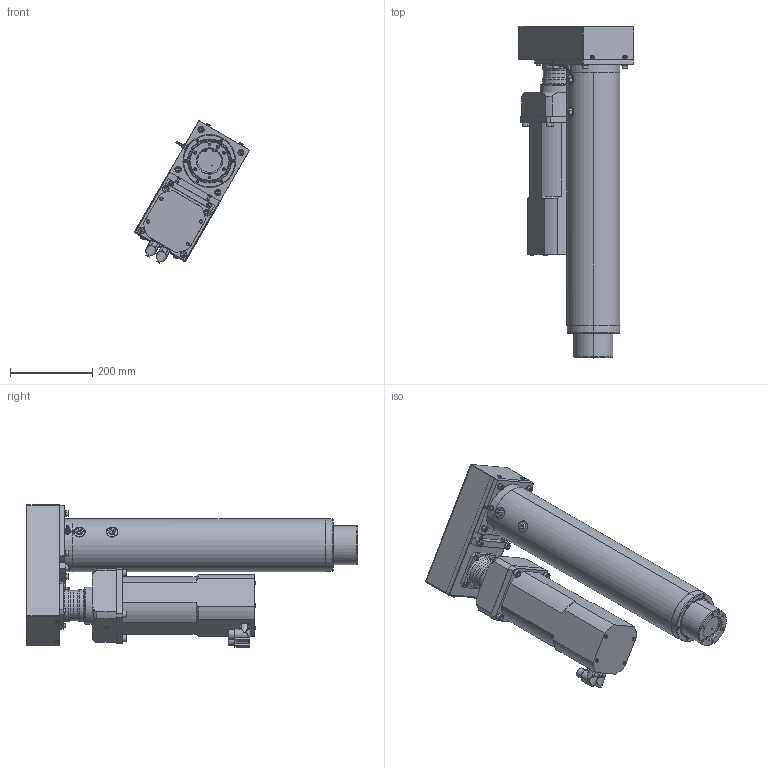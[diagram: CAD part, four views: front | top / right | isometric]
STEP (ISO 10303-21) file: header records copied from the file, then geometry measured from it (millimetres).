
FILE_DESCRIPTION (( 'STEP AP203' ), '1' );
FILE_NAME ('LN5P0300-035-025H.STEP', '2017-04-20T06:59:16', ( 'Holtz' ), ( '' ), 'SwSTEP 2.0', 'SolidWorks 2016', '' );
FILE_SCHEMA (( 'CONFIG_CONTROL_DESIGN' ));
Length unit declared in the file: millimetre
Products named in the file (1): LN5P0300-035-025H
Bounding box: 280.28 x 807.5 x 345.98 mm (x, y, z)
Volume: 13476095.4 mm3; surface area: 1596306.3 mm2
Topology: 44 solids, 44 shells, 1414 faces, 3261 edges, 1949 vertices
Faces by surface type: plane 565, cylinder 515, cone 258, torus 68, bspline 6, sphere 2
Entity records: 40894 total; most frequent: CARTESIAN_POINT 8559, DIRECTION 7153, ORIENTED_EDGE 6254, EDGE_CURVE 3127, AXIS2_PLACEMENT_3D 2777, VERTEX_POINT 1949, EDGE_LOOP 1686, VECTOR 1599
